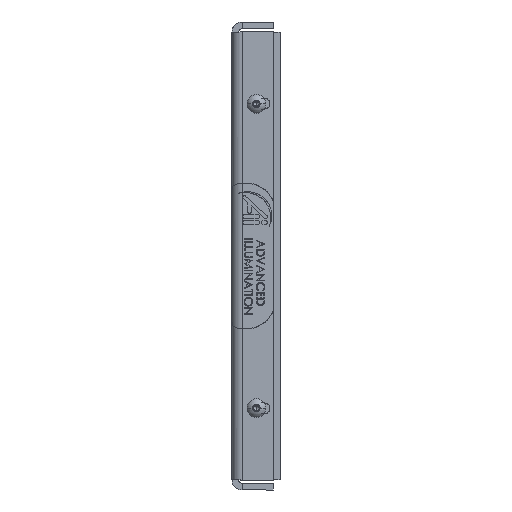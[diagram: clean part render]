
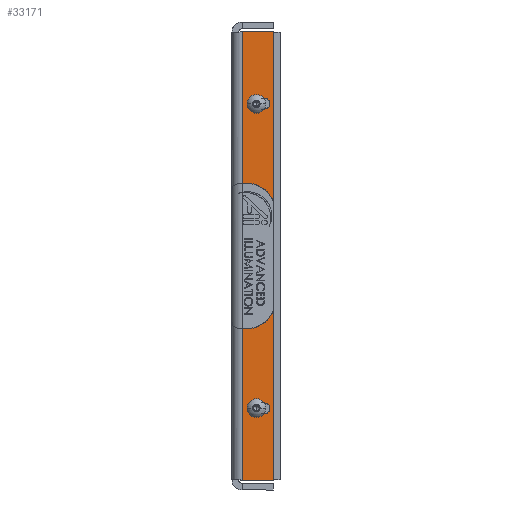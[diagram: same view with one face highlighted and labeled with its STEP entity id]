
A CAD part, left-side view. The second image highlights one B-rep face of the part: STEP entity #33171.
In plain terms, the highlighted planar face has unit normal (-1, 0, 0) as drawn and (1, 0, 0) by its records, which use the part's own axes.
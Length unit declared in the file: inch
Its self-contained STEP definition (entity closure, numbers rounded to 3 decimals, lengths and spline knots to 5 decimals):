
#643 = VERTEX_POINT ( 'NONE', #11943 ) ;
#941 = DIRECTION ( 'NONE',  ( 1., 0., 0. ) ) ;
#1693 = VERTEX_POINT ( 'NONE', #29362 ) ;
#1860 = VECTOR ( 'NONE', #27914, 39.37008 ) ;
#2251 = FACE_BOUND ( 'NONE', #22374, .T. ) ;
#2340 = EDGE_CURVE ( 'NONE', #34801, #30345, #6747, .T. ) ;
#3041 = CARTESIAN_POINT ( 'NONE',  ( 2.0585, 0.22482, 1.29266 ) ) ;
#3685 = DIRECTION ( 'NONE',  ( -1., 0., 0. ) ) ;
#3861 = CARTESIAN_POINT ( 'NONE',  ( 2.0585, 0.305, 0. ) ) ;
#4067 = ORIENTED_EDGE ( 'NONE', *, *, #8238, .T. ) ;
#4623 = LINE ( 'NONE', #27228, #32863 ) ;
#5223 = CIRCLE ( 'NONE', #25742, 0.048 ) ;
#5348 = EDGE_CURVE ( 'NONE', #29545, #1693, #34127, .T. ) ;
#6524 = CARTESIAN_POINT ( 'NONE',  ( 2.0585, 0.22482, 1.34066 ) ) ;
#6747 = CIRCLE ( 'NONE', #32008, 0.048 ) ;
#7005 = ORIENTED_EDGE ( 'NONE', *, *, #29426, .F. ) ;
#7058 = AXIS2_PLACEMENT_3D ( 'NONE', #23225, #34265, #9939 ) ;
#7666 = EDGE_CURVE ( 'NONE', #26604, #34801, #20836, .T. ) ;
#8046 = VERTEX_POINT ( 'NONE', #8123 ) ;
#8082 = DIRECTION ( 'NONE',  ( 1., 0., 0. ) ) ;
#8123 = CARTESIAN_POINT ( 'NONE',  ( 2.0585, 0.17082, 1.38866 ) ) ;
#8158 = CARTESIAN_POINT ( 'NONE',  ( 2.0585, 0.029, 2.0585 ) ) ;
#8238 = EDGE_CURVE ( 'NONE', #23029, #30305, #9066, .T. ) ;
#8482 = VERTEX_POINT ( 'NONE', #31859 ) ;
#9066 = LINE ( 'NONE', #3861, #1860 ) ;
#9370 = LINE ( 'NONE', #8158, #22839 ) ;
#9570 = CARTESIAN_POINT ( 'NONE',  ( 2.0585, 0.22482, -1.38866 ) ) ;
#9939 = DIRECTION ( 'NONE',  ( 0., 0., -1. ) ) ;
#9949 = EDGE_CURVE ( 'NONE', #8482, #23029, #25885, .T. ) ;
#10543 = CIRCLE ( 'NONE', #7058, 0.048 ) ;
#10575 = CARTESIAN_POINT ( 'NONE',  ( 2.0585, 0.17082, -1.29266 ) ) ;
#10817 = ORIENTED_EDGE ( 'NONE', *, *, #27443, .F. ) ;
#10952 = CARTESIAN_POINT ( 'NONE',  ( 2.0585, 0., 1.97066 ) ) ;
#11030 = DIRECTION ( 'NONE',  ( 0., 1., 0. ) ) ;
#11279 = CARTESIAN_POINT ( 'NONE',  ( 2.0585, 0.22482, -1.34066 ) ) ;
#11943 = CARTESIAN_POINT ( 'NONE',  ( 2.0585, 0.22482, 1.38866 ) ) ;
#12266 = DIRECTION ( 'NONE',  ( 0., 0., -1. ) ) ;
#12789 = AXIS2_PLACEMENT_3D ( 'NONE', #14307, #3685, #19817 ) ;
#12916 = EDGE_LOOP ( 'NONE', ( #15292, #24185, #17812, #26053 ) ) ;
#14085 = FACE_OUTER_BOUND ( 'NONE', #24608, .T. ) ;
#14120 = ORIENTED_EDGE ( 'NONE', *, *, #30196, .T. ) ;
#14307 = CARTESIAN_POINT ( 'NONE',  ( 2.0585, 0., 0. ) ) ;
#15129 = DIRECTION ( 'NONE',  ( 0., -1., 0. ) ) ;
#15208 = DIRECTION ( 'NONE',  ( 0., -1., 0. ) ) ;
#15292 = ORIENTED_EDGE ( 'NONE', *, *, #28560, .F. ) ;
#15384 = CARTESIAN_POINT ( 'NONE',  ( 2.0585, 0.17082, -1.34066 ) ) ;
#15790 = LINE ( 'NONE', #10952, #32191 ) ;
#16301 = DIRECTION ( 'NONE',  ( 0., 0., 1. ) ) ;
#16334 = CIRCLE ( 'NONE', #31625, 0.048 ) ;
#17061 = ORIENTED_EDGE ( 'NONE', *, *, #9949, .T. ) ;
#17760 = DIRECTION ( 'NONE',  ( 0., 0., -1. ) ) ;
#17812 = ORIENTED_EDGE ( 'NONE', *, *, #5348, .T. ) ;
#18241 = EDGE_CURVE ( 'NONE', #8046, #1693, #10543, .T. ) ;
#18836 = VERTEX_POINT ( 'NONE', #9570 ) ;
#19050 = DIRECTION ( 'NONE',  ( 0., 1., 0. ) ) ;
#19320 = CARTESIAN_POINT ( 'NONE',  ( 2.0585, 0.029, 1.97066 ) ) ;
#19817 = DIRECTION ( 'NONE',  ( 0., -1., 0. ) ) ;
#20380 = VERTEX_POINT ( 'NONE', #19320 ) ;
#20836 = LINE ( 'NONE', #26534, #25489 ) ;
#21089 = DIRECTION ( 'NONE',  ( 0., -1., 0. ) ) ;
#21720 = DIRECTION ( 'NONE',  ( 0., 0., -1. ) ) ;
#22131 = DIRECTION ( 'NONE',  ( 0., -1., 0. ) ) ;
#22374 = EDGE_LOOP ( 'NONE', ( #32111, #10817, #14120, #23818 ) ) ;
#22498 = EDGE_CURVE ( 'NONE', #8482, #20380, #9370, .T. ) ;
#22839 = VECTOR ( 'NONE', #16301, 39.37008 ) ;
#23029 = VERTEX_POINT ( 'NONE', #28501 ) ;
#23225 = CARTESIAN_POINT ( 'NONE',  ( 2.0585, 0.17082, 1.34066 ) ) ;
#23290 = VECTOR ( 'NONE', #11030, 39.37008 ) ;
#23818 = ORIENTED_EDGE ( 'NONE', *, *, #2340, .F. ) ;
#24025 = VECTOR ( 'NONE', #15208, 39.37008 ) ;
#24185 = ORIENTED_EDGE ( 'NONE', *, *, #24409, .F. ) ;
#24409 = EDGE_CURVE ( 'NONE', #29545, #643, #5223, .T. ) ;
#24608 = EDGE_LOOP ( 'NONE', ( #30390, #17061, #4067, #7005 ) ) ;
#25489 = VECTOR ( 'NONE', #21089, 39.37008 ) ;
#25742 = AXIS2_PLACEMENT_3D ( 'NONE', #6524, #941, #12266 ) ;
#25885 = LINE ( 'NONE', #27398, #23290 ) ;
#26053 = ORIENTED_EDGE ( 'NONE', *, *, #18241, .F. ) ;
#26393 = VECTOR ( 'NONE', #15129, 39.37008 ) ;
#26534 = CARTESIAN_POINT ( 'NONE',  ( 2.0585, 0.22482, -1.29266 ) ) ;
#26604 = VERTEX_POINT ( 'NONE', #32988 ) ;
#27228 = CARTESIAN_POINT ( 'NONE',  ( 2.0585, 0.22482, -1.38866 ) ) ;
#27398 = CARTESIAN_POINT ( 'NONE',  ( 2.0585, 0., -1.97066 ) ) ;
#27443 = EDGE_CURVE ( 'NONE', #18836, #26604, #16334, .T. ) ;
#27914 = DIRECTION ( 'NONE',  ( 0., 0., 1. ) ) ;
#28259 = CARTESIAN_POINT ( 'NONE',  ( 2.0585, 0.22482, 1.29266 ) ) ;
#28501 = CARTESIAN_POINT ( 'NONE',  ( 2.0585, 0.305, -1.97066 ) ) ;
#28560 = EDGE_CURVE ( 'NONE', #643, #8046, #34772, .T. ) ;
#28734 = CARTESIAN_POINT ( 'NONE',  ( 2.0585, 0.305, 1.97066 ) ) ;
#29362 = CARTESIAN_POINT ( 'NONE',  ( 2.0585, 0.17082, 1.29266 ) ) ;
#29426 = EDGE_CURVE ( 'NONE', #20380, #30305, #15790, .T. ) ;
#29545 = VERTEX_POINT ( 'NONE', #3041 ) ;
#30064 = FACE_BOUND ( 'NONE', #12916, .T. ) ;
#30196 = EDGE_CURVE ( 'NONE', #18836, #30345, #4623, .T. ) ;
#30305 = VERTEX_POINT ( 'NONE', #28734 ) ;
#30345 = VERTEX_POINT ( 'NONE', #32574 ) ;
#30390 = ORIENTED_EDGE ( 'NONE', *, *, #22498, .F. ) ;
#31625 = AXIS2_PLACEMENT_3D ( 'NONE', #11279, #8082, #21720 ) ;
#31736 = DIRECTION ( 'NONE',  ( 1., 0., 0. ) ) ;
#31859 = CARTESIAN_POINT ( 'NONE',  ( 2.0585, 0.029, -1.97066 ) ) ;
#32008 = AXIS2_PLACEMENT_3D ( 'NONE', #15384, #31736, #17760 ) ;
#32111 = ORIENTED_EDGE ( 'NONE', *, *, #7666, .F. ) ;
#32191 = VECTOR ( 'NONE', #19050, 39.37008 ) ;
#32574 = CARTESIAN_POINT ( 'NONE',  ( 2.0585, 0.17082, -1.38866 ) ) ;
#32863 = VECTOR ( 'NONE', #22131, 39.37008 ) ;
#32897 = PLANE ( 'NONE',  #12789 ) ;
#32988 = CARTESIAN_POINT ( 'NONE',  ( 2.0585, 0.22482, -1.29266 ) ) ;
#33171 = ADVANCED_FACE ( 'NONE', ( #14085, #2251, #30064 ), #32897, .F. ) ;
#33822 = CARTESIAN_POINT ( 'NONE',  ( 2.0585, 0.22482, 1.38866 ) ) ;
#34127 = LINE ( 'NONE', #28259, #24025 ) ;
#34265 = DIRECTION ( 'NONE',  ( 1., 0., 0. ) ) ;
#34772 = LINE ( 'NONE', #33822, #26393 ) ;
#34801 = VERTEX_POINT ( 'NONE', #10575 ) ;
